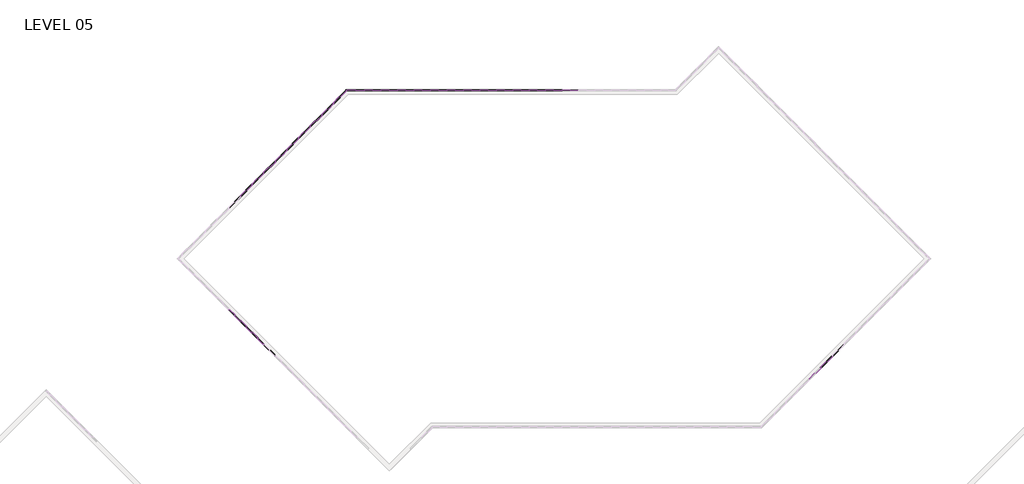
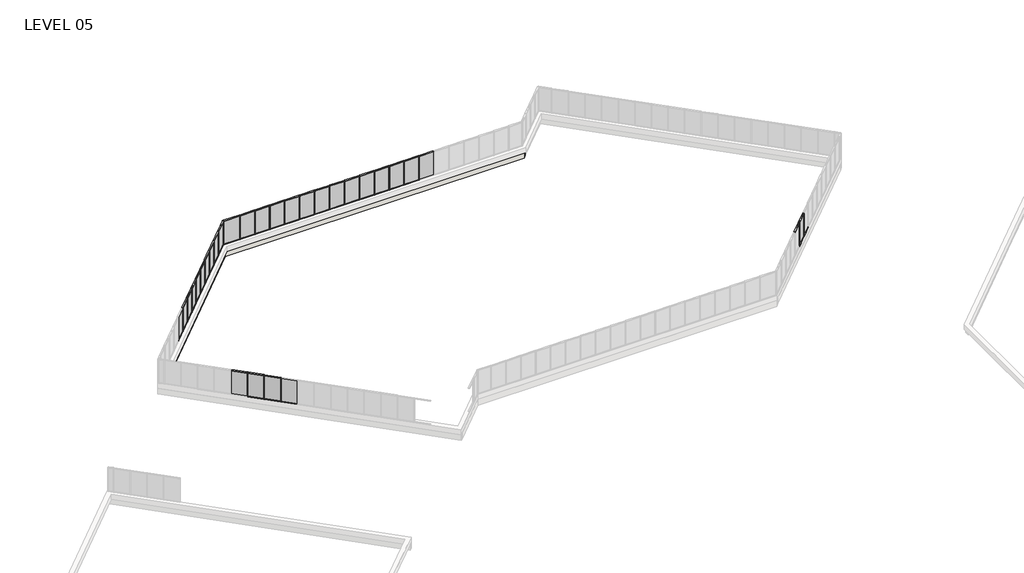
# One storey, part 14 of 17: 85 members, 29 plates, 2 walls.
"""IFC4 building model written with IfcOpenShell, lengths in millimetres."""

from ifc_helpers import new_model, si_unit, origin, place, context, project, spatial, faceted_brep, transform, mapped, element, save
from components import member_5247f267, member_e44af9ab, member_800970d4, member_1bd862b2, member_7ca0f77f, plate_67294edd, plate_bbcbcabf, plate_3fb62afd, plate_e0fd5134

model = new_model("IFC4")

# Units and contexts
model_context = context("Model", 3, world=origin())
ifc_project = project(units=[si_unit("LENGTHUNIT", "METRE", prefix="MILLI")], contexts=[model_context])

# Site, building, storey
site = spatial("IfcSite", under=ifc_project)
building = spatial("IfcBuilding", under=site)
storey = spatial("IfcBuildingStorey", under=building, Name="LEVEL 05", Elevation=15824.2)

# Members
placement = place(None, origin())
member_shape = member_5247f267(model_context)
element("IfcMember", 1, ObjectType="Rectangular Mullion : 2\" x 4.5\" rectangular", at=placement, inside=storey, context=model_context, shape_type="MappedRepresentation", body=[
    mapped(member_shape, transform((30562.55, 120127.9523049, 15824.2), x_axis=(0.0, 0.0, -1.0), y_axis=(0.0, 1.0, 0.0), z_axis=(1.0, 0.0, 0.0))),
])
element("IfcMember", 2, ObjectType="Rectangular Mullion : 2\" x 4.5\" rectangular", at=placement, inside=storey, context=model_context, shape_type="MappedRepresentation", body=[
    mapped(member_shape, transform((29038.55, 120127.9523049, 15824.2), x_axis=(0.0, 0.0, -1.0), y_axis=(0.0, 1.0, 0.0), z_axis=(1.0, 0.0, 0.0))),
])
element("IfcMember", 3, ObjectType="Rectangular Mullion : 2\" x 4.5\" rectangular", at=placement, inside=storey, context=model_context, shape_type="MappedRepresentation", body=[
    mapped(member_shape, transform((27514.55, 120127.9523049, 15824.2), x_axis=(0.0, 0.0, -1.0), y_axis=(0.0, 1.0, 0.0), z_axis=(1.0, 0.0, 0.0))),
])
element("IfcMember", 4, ObjectType="Rectangular Mullion : 2\" x 4.5\" rectangular", at=placement, inside=storey, context=model_context, shape_type="MappedRepresentation", body=[
    mapped(member_shape, transform((24466.55, 120127.9523049, 15824.2), x_axis=(0.0, 0.0, -1.0), y_axis=(0.0, 1.0, 0.0), z_axis=(1.0, 0.0, 0.0))),
])
element("IfcMember", 5, ObjectType="Rectangular Mullion : 2\" x 4.5\" rectangular", at=placement, inside=storey, context=model_context, shape_type="MappedRepresentation", body=[
    mapped(member_shape, transform((22942.55, 120127.9523049, 15824.2), x_axis=(0.0, 0.0, -1.0), y_axis=(0.0, 1.0, 0.0), z_axis=(1.0, 0.0, 0.0))),
])
element("IfcMember", 6, ObjectType="Rectangular Mullion : 2\" x 4.5\" rectangular", at=placement, inside=storey, context=model_context, shape_type="MappedRepresentation", body=[
    mapped(member_shape, transform((19894.55, 120127.9523049, 15824.2), x_axis=(0.0, 0.0, -1.0), y_axis=(0.0, 1.0, 0.0), z_axis=(1.0, 0.0, 0.0))),
])
element("IfcMember", 7, ObjectType="Rectangular Mullion : 2\" x 4.5\" rectangular", at=placement, inside=storey, context=model_context, shape_type="MappedRepresentation", body=[
    mapped(member_shape, transform((15322.55, 120127.9523049, 15824.2), x_axis=(0.0, 0.0, -1.0), y_axis=(0.0, 1.0, 0.0), z_axis=(1.0, 0.0, 0.0))),
])
element("IfcMember", 8, ObjectType="Rectangular Mullion : 2\" x 4.5\" rectangular", at=placement, inside=storey, context=model_context, shape_type="MappedRepresentation", body=[
    mapped(member_shape, transform((13798.55, 120127.9523049, 15824.2), x_axis=(0.0, 0.0, -1.0), y_axis=(0.0, 1.0, 0.0), z_axis=(1.0, 0.0, 0.0))),
])
element("IfcMember", 9, ObjectType="Rectangular Mullion : 2\" x 4.5\" rectangular", at=placement, inside=storey, context=model_context, shape_type="MappedRepresentation", body=[
    mapped(member_shape, transform((21418.55, 120127.9523049, 15824.2), x_axis=(0.0, 0.0, -1.0), y_axis=(0.0, 1.0, 0.0), z_axis=(1.0, 0.0, 0.0))),
])
element("IfcMember", 10, ObjectType="Rectangular Mullion : 2\" x 4.5\" rectangular", at=placement, inside=storey, context=model_context, shape_type="MappedRepresentation", body=[
    mapped(member_shape, transform((25990.55, 120127.9523049, 15824.2), x_axis=(0.0, 0.0, -1.0), y_axis=(0.0, 1.0, 0.0), z_axis=(1.0, 0.0, 0.0))),
])
element("IfcMember", 11, ObjectType="Rectangular Mullion : 2\" x 4.5\" rectangular", at=placement, inside=storey, context=model_context, shape_type="MappedRepresentation", body=[
    mapped(member_shape, transform((18370.55, 120127.9523049, 15824.2), x_axis=(0.0, 0.0, -1.0), y_axis=(0.0, 1.0, 0.0), z_axis=(1.0, 0.0, 0.0))),
])
element("IfcMember", 12, ObjectType="Rectangular Mullion : 2\" x 4.5\" rectangular", at=placement, inside=storey, context=model_context, shape_type="MappedRepresentation", body=[
    mapped(member_shape, transform((16846.55, 120127.9523049, 15824.2), x_axis=(0.0, 0.0, -1.0), y_axis=(0.0, 1.0, 0.0), z_axis=(1.0, 0.0, 0.0))),
])
element("IfcMember", 13, ObjectType="Rectangular Mullion : 2\" x 4.5\" rectangular", at=placement, inside=storey, context=model_context, shape_type="MappedRepresentation", body=[
    mapped(member_shape, transform((9397.6593581, 118915.3677986, 15824.2), x_axis=(0.0, 0.0, -1.0), y_axis=(-0.7071067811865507, 0.7071067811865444, 0.0), z_axis=(0.7071067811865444, 0.7071067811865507, 0.0))),
])
element("IfcMember", 14, ObjectType="Rectangular Mullion : 2\" x 4.5\" rectangular", at=placement, inside=storey, context=model_context, shape_type="MappedRepresentation", body=[
    mapped(member_shape, transform((8320.0286235, 117837.7370641, 15824.2), x_axis=(0.0, 0.0, -1.0), y_axis=(-0.7071067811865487, 0.7071067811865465, 0.0), z_axis=(0.7071067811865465, 0.7071067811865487, 0.0))),
])
element("IfcMember", 15, ObjectType="Rectangular Mullion : 2\" x 4.5\" rectangular", at=placement, inside=storey, context=model_context, shape_type="MappedRepresentation", body=[
    mapped(member_shape, transform((7242.397889, 116760.1063296, 15824.2), x_axis=(0.0, 0.0, -1.0), y_axis=(-0.7071067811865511, 0.707106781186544, 0.0), z_axis=(0.707106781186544, 0.7071067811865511, 0.0))),
])
element("IfcMember", 16, ObjectType="Rectangular Mullion : 2\" x 4.5\" rectangular", at=placement, inside=storey, context=model_context, shape_type="MappedRepresentation", body=[
    mapped(member_shape, transform((6164.7671545, 115682.475595, 15824.2), x_axis=(0.0, 0.0, -1.0), y_axis=(-0.7071067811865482, 0.7071067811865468, 0.0), z_axis=(0.7071067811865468, 0.7071067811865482, 0.0))),
])
element("IfcMember", 17, ObjectType="Rectangular Mullion : 2\" x 4.5\" rectangular", at=placement, inside=storey, context=model_context, shape_type="MappedRepresentation", body=[
    mapped(member_shape, transform((4009.5056854, 113527.214126, 15824.2), x_axis=(0.0, 0.0, -1.0), y_axis=(-0.7071067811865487, 0.7071067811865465, 0.0), z_axis=(0.7071067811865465, 0.7071067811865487, 0.0))),
])
element("IfcMember", 18, ObjectType="Rectangular Mullion : 2\" x 4.5\" rectangular", at=placement, inside=storey, context=model_context, shape_type="MappedRepresentation", body=[
    mapped(member_shape, transform((2931.8749509, 112449.5833914, 15824.2), x_axis=(0.0, 0.0, -1.0), y_axis=(-0.7071067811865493, 0.7071067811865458, 0.0), z_axis=(0.7071067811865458, 0.7071067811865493, 0.0))),
])
element("IfcMember", 19, ObjectType="Rectangular Mullion : 2\" x 4.5\" rectangular", at=placement, inside=storey, context=model_context, shape_type="MappedRepresentation", body=[
    mapped(member_shape, transform((1854.2442164, 111371.9526569, 15824.2), x_axis=(0.0, 0.0, -1.0), y_axis=(-0.7071067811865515, 0.7071067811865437, 0.0), z_axis=(0.7071067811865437, 0.7071067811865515, 0.0))),
])
element("IfcMember", 20, ObjectType="Rectangular Mullion : 2\" x 4.5\" rectangular", at=placement, inside=storey, context=model_context, shape_type="MappedRepresentation", body=[
    mapped(member_shape, transform((5087.1364199, 114604.8448605, 15824.2), x_axis=(0.0, 0.0, -1.0), y_axis=(-0.7071067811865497, 0.7071067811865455, 0.0), z_axis=(0.7071067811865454, 0.7071067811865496, 0.0))),
])
element("IfcMember", 21, ObjectType="Rectangular Mullion : 2\" x 4.5\" rectangular", at=placement, inside=storey, context=model_context, shape_type="MappedRepresentation", body=[
    mapped(member_shape, transform((776.6134818, 110294.3219224, 15824.2), x_axis=(0.0, 0.0, -1.0), y_axis=(-0.7071067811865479, 0.7071067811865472, 0.0), z_axis=(0.7071067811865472, 0.7071067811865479, 0.0))),
])
element("IfcMember", 22, ObjectType="Rectangular Mullion : 2\" x 4.5\" rectangular", at=placement, inside=storey, context=model_context, shape_type="MappedRepresentation", body=[
    mapped(member_shape, transform((812.713179, 98753.3329903, 15824.2), x_axis=(0.0, 0.0, -1.0), y_axis=(-0.7071067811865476, -0.7071067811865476, 0.0), z_axis=(-0.7071067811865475, 0.7071067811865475, 0.0))),
])
element("IfcMember", 23, ObjectType="Rectangular Mullion : 2\" x 4.5\" rectangular", at=placement, inside=storey, context=model_context, shape_type="MappedRepresentation", body=[
    mapped(member_shape, transform((1890.3439135, 97675.7022558, 15824.2), x_axis=(0.0, 0.0, -1.0), y_axis=(-0.7071067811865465, -0.7071067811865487, 0.0), z_axis=(-0.7071067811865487, 0.7071067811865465, 0.0))),
])
element("IfcMember", 24, ObjectType="Rectangular Mullion : 2\" x 4.5\" rectangular", at=placement, inside=storey, context=model_context, shape_type="MappedRepresentation", body=[
    mapped(member_shape, transform((2967.974648, 96598.0715213, 15824.2), x_axis=(0.0, 0.0, -1.0), y_axis=(-0.7071067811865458, -0.7071067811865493, 0.0), z_axis=(-0.7071067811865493, 0.7071067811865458, 0.0))),
])
element("IfcMember", 25, ObjectType="Rectangular Mullion : 2\" x 4.5\" rectangular", at=placement, inside=storey, context=model_context, shape_type="MappedRepresentation", body=[
    mapped(member_shape, transform((55642.2748488, 95556.4210181, 15824.2), x_axis=(0.0, 0.0, -1.0), y_axis=(0.7071067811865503, -0.7071067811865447, 0.0), z_axis=(-0.7071067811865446, -0.7071067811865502, 0.0))),
])
element("IfcMember", 26, ObjectType="Rectangular Mullion : 2\" x 4.5\" rectangular", at=placement, inside=storey, context=model_context, shape_type="MappedRepresentation", body=[
    mapped(member_shape, transform((54564.6515152, 94478.7976845, 15824.2), x_axis=(0.0, 0.0, -1.0), y_axis=(0.7071067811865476, -0.7071067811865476, 0.0), z_axis=(-0.7071067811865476, -0.7071067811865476, 0.0))),
])
element("IfcMember", 27, ObjectType="Rectangular Mullion : 2\" x 4.5\" rectangular", at=placement, inside=storey, context=model_context, shape_type="MappedRepresentation", body=[
    mapped(member_shape, transform((30613.35, 120127.9523049, 18415.0), x_axis=(0.0, 0.0, 1.0), y_axis=(0.0, 1.0, 0.0), z_axis=(-1.0, 0.0, 0.0))),
])
element("IfcMember", 28, ObjectType="Rectangular Mullion : 2\" x 4.5\" rectangular", at=placement, inside=storey, context=model_context, shape_type="MappedRepresentation", body=[
    mapped(member_shape, transform((29089.35, 120127.9523049, 18415.0), x_axis=(0.0, 0.0, 1.0), y_axis=(0.0, 1.0, 0.0), z_axis=(-1.0, 0.0, 0.0))),
])
element("IfcMember", 29, ObjectType="Rectangular Mullion : 2\" x 4.5\" rectangular", at=placement, inside=storey, context=model_context, shape_type="MappedRepresentation", body=[
    mapped(member_shape, transform((27565.35, 120127.9523049, 18415.0), x_axis=(0.0, 0.0, 1.0), y_axis=(0.0, 1.0, 0.0), z_axis=(-1.0, 0.0, 0.0))),
])
element("IfcMember", 30, ObjectType="Rectangular Mullion : 2\" x 4.5\" rectangular", at=placement, inside=storey, context=model_context, shape_type="MappedRepresentation", body=[
    mapped(member_shape, transform((24517.35, 120127.9523049, 18415.0), x_axis=(0.0, 0.0, 1.0), y_axis=(0.0, 1.0, 0.0), z_axis=(-1.0, 0.0, 0.0))),
])
element("IfcMember", 31, ObjectType="Rectangular Mullion : 2\" x 4.5\" rectangular", at=placement, inside=storey, context=model_context, shape_type="MappedRepresentation", body=[
    mapped(member_shape, transform((22993.35, 120127.9523049, 18415.0), x_axis=(0.0, 0.0, 1.0), y_axis=(0.0, 1.0, 0.0), z_axis=(-1.0, 0.0, 0.0))),
])
element("IfcMember", 32, ObjectType="Rectangular Mullion : 2\" x 4.5\" rectangular", at=placement, inside=storey, context=model_context, shape_type="MappedRepresentation", body=[
    mapped(member_shape, transform((19945.35, 120127.9523049, 18415.0), x_axis=(0.0, 0.0, 1.0), y_axis=(0.0, 1.0, 0.0), z_axis=(-1.0, 0.0, 0.0))),
])
element("IfcMember", 33, ObjectType="Rectangular Mullion : 2\" x 4.5\" rectangular", at=placement, inside=storey, context=model_context, shape_type="MappedRepresentation", body=[
    mapped(member_shape, transform((15373.35, 120127.9523049, 18415.0), x_axis=(0.0, 0.0, 1.0), y_axis=(0.0, 1.0, 0.0), z_axis=(-1.0, 0.0, 0.0))),
])
element("IfcMember", 34, ObjectType="Rectangular Mullion : 2\" x 4.5\" rectangular", at=placement, inside=storey, context=model_context, shape_type="MappedRepresentation", body=[
    mapped(member_shape, transform((13849.35, 120127.9523049, 18415.0), x_axis=(0.0, 0.0, 1.0), y_axis=(0.0, 1.0, 0.0), z_axis=(-1.0, 0.0, 0.0))),
])
element("IfcMember", 35, ObjectType="Rectangular Mullion : 2\" x 4.5\" rectangular", at=placement, inside=storey, context=model_context, shape_type="MappedRepresentation", body=[
    mapped(member_shape, transform((21469.35, 120127.9523049, 18415.0), x_axis=(0.0, 0.0, 1.0), y_axis=(0.0, 1.0, 0.0), z_axis=(-1.0, 0.0, 0.0))),
])
element("IfcMember", 36, ObjectType="Rectangular Mullion : 2\" x 4.5\" rectangular", at=placement, inside=storey, context=model_context, shape_type="MappedRepresentation", body=[
    mapped(member_shape, transform((26041.35, 120127.9523049, 18415.0), x_axis=(0.0, 0.0, 1.0), y_axis=(0.0, 1.0, 0.0), z_axis=(-1.0, 0.0, 0.0))),
])
element("IfcMember", 37, ObjectType="Rectangular Mullion : 2\" x 4.5\" rectangular", at=placement, inside=storey, context=model_context, shape_type="MappedRepresentation", body=[
    mapped(member_shape, transform((18421.35, 120127.9523049, 18415.0), x_axis=(0.0, 0.0, 1.0), y_axis=(0.0, 1.0, 0.0), z_axis=(-1.0, 0.0, 0.0))),
])
element("IfcMember", 38, ObjectType="Rectangular Mullion : 2\" x 4.5\" rectangular", at=placement, inside=storey, context=model_context, shape_type="MappedRepresentation", body=[
    mapped(member_shape, transform((16897.35, 120127.9523049, 18415.0), x_axis=(0.0, 0.0, 1.0), y_axis=(0.0, 1.0, 0.0), z_axis=(-1.0, 0.0, 0.0))),
])
element("IfcMember", 39, ObjectType="Rectangular Mullion : 2\" x 4.5\" rectangular", at=placement, inside=storey, context=model_context, shape_type="MappedRepresentation", body=[
    mapped(member_shape, transform((12325.35, 120127.9523049, 18415.0), x_axis=(0.0, 0.0, 1.0), y_axis=(0.0, 1.0, 0.0), z_axis=(-1.0, 0.0, 0.0))),
])
element("IfcMember", 40, ObjectType="Rectangular Mullion : 2\" x 4.5\" rectangular", at=placement, inside=storey, context=model_context, shape_type="MappedRepresentation", body=[
    mapped(member_shape, transform((8355.949648, 117873.6580886, 18415.0), x_axis=(0.0, 0.0, 1.0), y_axis=(-0.7071067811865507, 0.7071067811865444, 0.0), z_axis=(-0.7071067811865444, -0.7071067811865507, 0.0))),
])
element("IfcMember", 41, ObjectType="Rectangular Mullion : 2\" x 4.5\" rectangular", at=placement, inside=storey, context=model_context, shape_type="MappedRepresentation", body=[
    mapped(member_shape, transform((7278.3189135, 116796.027354, 18415.0), x_axis=(0.0, 0.0, 1.0), y_axis=(-0.7071067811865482, 0.7071067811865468, 0.0), z_axis=(-0.7071067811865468, -0.7071067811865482, 0.0))),
])
element("IfcMember", 42, ObjectType="Rectangular Mullion : 2\" x 4.5\" rectangular", at=placement, inside=storey, context=model_context, shape_type="MappedRepresentation", body=[
    mapped(member_shape, transform((6200.688179, 115718.3966195, 18415.0), x_axis=(0.0, 0.0, 1.0), y_axis=(-0.7071067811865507, 0.7071067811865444, 0.0), z_axis=(-0.7071067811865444, -0.7071067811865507, 0.0))),
])
element("IfcMember", 43, ObjectType="Rectangular Mullion : 2\" x 4.5\" rectangular", at=placement, inside=storey, context=model_context, shape_type="MappedRepresentation", body=[
    mapped(member_shape, transform((4045.4267099, 113563.1351505, 18415.0), x_axis=(0.0, 0.0, 1.0), y_axis=(-0.7071067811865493, 0.7071067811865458, 0.0), z_axis=(-0.7071067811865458, -0.7071067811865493, 0.0))),
])
element("IfcMember", 44, ObjectType="Rectangular Mullion : 2\" x 4.5\" rectangular", at=placement, inside=storey, context=model_context, shape_type="MappedRepresentation", body=[
    mapped(member_shape, transform((2967.7959754, 112485.5044159, 18415.0), x_axis=(0.0, 0.0, 1.0), y_axis=(-0.7071067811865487, 0.7071067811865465, 0.0), z_axis=(-0.7071067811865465, -0.7071067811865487, 0.0))),
])
element("IfcMember", 45, ObjectType="Rectangular Mullion : 2\" x 4.5\" rectangular", at=placement, inside=storey, context=model_context, shape_type="MappedRepresentation", body=[
    mapped(member_shape, transform((1890.1652408, 111407.8736814, 18415.0), x_axis=(0.0, 0.0, 1.0), y_axis=(-0.7071067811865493, 0.7071067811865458, 0.0), z_axis=(-0.7071067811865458, -0.7071067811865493, 0.0))),
])
element("IfcMember", 46, ObjectType="Rectangular Mullion : 2\" x 4.5\" rectangular", at=placement, inside=storey, context=model_context, shape_type="MappedRepresentation", body=[
    mapped(member_shape, transform((5123.0574444, 114640.765885, 18415.0), x_axis=(0.0, 0.0, 1.0), y_axis=(-0.707106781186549, 0.7071067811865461, 0.0), z_axis=(-0.707106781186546, -0.7071067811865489, 0.0))),
])
element("IfcMember", 47, ObjectType="Rectangular Mullion : 2\" x 4.5\" rectangular", at=placement, inside=storey, context=model_context, shape_type="MappedRepresentation", body=[
    mapped(member_shape, transform((812.5345063, 110330.2429469, 18415.0), x_axis=(0.0, 0.0, 1.0), y_axis=(-0.7071067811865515, 0.7071067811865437, 0.0), z_axis=(-0.7071067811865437, -0.7071067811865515, 0.0))),
])
element("IfcMember", 48, ObjectType="Rectangular Mullion : 2\" x 4.5\" rectangular", at=placement, inside=storey, context=model_context, shape_type="MappedRepresentation", body=[
    mapped(member_shape, transform((776.7921545, 98789.2540148, 18415.0), x_axis=(0.0, 0.0, 1.0), y_axis=(-0.7071067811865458, -0.7071067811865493, 0.0), z_axis=(0.7071067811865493, -0.7071067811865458, 0.0))),
])
element("IfcMember", 49, ObjectType="Rectangular Mullion : 2\" x 4.5\" rectangular", at=placement, inside=storey, context=model_context, shape_type="MappedRepresentation", body=[
    mapped(member_shape, transform((1854.422889, 97711.6232803, 18415.0), x_axis=(0.0, 0.0, 1.0), y_axis=(-0.7071067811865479, -0.7071067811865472, 0.0), z_axis=(0.7071067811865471, -0.7071067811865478, 0.0))),
])
element("IfcMember", 50, ObjectType="Rectangular Mullion : 2\" x 4.5\" rectangular", at=placement, inside=storey, context=model_context, shape_type="MappedRepresentation", body=[
    mapped(member_shape, transform((2932.0536235, 96633.9925458, 18415.0), x_axis=(0.0, 0.0, 1.0), y_axis=(-0.7071067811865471, -0.7071067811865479, 0.0), z_axis=(0.7071067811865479, -0.7071067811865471, 0.0))),
])
element("IfcMember", 51, ObjectType="Rectangular Mullion : 2\" x 4.5\" rectangular", at=placement, inside=storey, context=model_context, shape_type="MappedRepresentation", body=[
    mapped(member_shape, transform((55606.3538244, 95520.4999937, 18415.0), x_axis=(0.0, 0.0, 1.0), y_axis=(0.7071067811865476, -0.7071067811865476, 0.0), z_axis=(0.7071067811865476, 0.7071067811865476, 0.0))),
])
element("IfcMember", 52, ObjectType="Rectangular Mullion : 2\" x 4.5\" rectangular", at=placement, inside=storey, context=model_context, shape_type="MappedRepresentation", body=[
    mapped(member_shape, transform((54528.7304907, 94442.87666, 18415.0), x_axis=(0.0, 0.0, 1.0), y_axis=(0.7071067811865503, -0.7071067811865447, 0.0), z_axis=(0.7071067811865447, 0.7071067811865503, 0.0))),
])
member_2_shape = member_e44af9ab(model_context)
element("IfcMember", 53, ObjectType="Rectangular Mullion : 2\" x 4.5\" rectangular", at=placement, inside=storey, context=model_context, shape_type="MappedRepresentation", body=[
    mapped(member_2_shape, transform((30587.95, 120127.9523049, 15824.2), x_axis=(-1.0, 0.0, 0.0), y_axis=(0.0, 1.0, 0.0), z_axis=(0.0, 0.0, -1.0))),
])
element("IfcMember", 54, ObjectType="Rectangular Mullion : 2\" x 4.5\" rectangular", at=placement, inside=storey, context=model_context, shape_type="MappedRepresentation", body=[
    mapped(member_2_shape, transform((29063.95, 120127.9523049, 15824.2), x_axis=(-1.0, 0.0, 0.0), y_axis=(0.0, 1.0, 0.0), z_axis=(0.0, 0.0, -1.0))),
])
element("IfcMember", 55, ObjectType="Rectangular Mullion : 2\" x 4.5\" rectangular", at=placement, inside=storey, context=model_context, shape_type="MappedRepresentation", body=[
    mapped(member_2_shape, transform((27539.95, 120127.9523049, 15824.2), x_axis=(-1.0, 0.0, 0.0), y_axis=(0.0, 1.0, 0.0), z_axis=(0.0, 0.0, -1.0))),
])
element("IfcMember", 56, ObjectType="Rectangular Mullion : 2\" x 4.5\" rectangular", at=placement, inside=storey, context=model_context, shape_type="MappedRepresentation", body=[
    mapped(member_2_shape, transform((24491.95, 120127.9523049, 15824.2), x_axis=(-1.0, 0.0, 0.0), y_axis=(0.0, 1.0, 0.0), z_axis=(0.0, 0.0, -1.0))),
])
element("IfcMember", 57, ObjectType="Rectangular Mullion : 2\" x 4.5\" rectangular", at=placement, inside=storey, context=model_context, shape_type="MappedRepresentation", body=[
    mapped(member_2_shape, transform((22967.95, 120127.9523049, 15824.2), x_axis=(-1.0, 0.0, 0.0), y_axis=(0.0, 1.0, 0.0), z_axis=(0.0, 0.0, -1.0))),
])
element("IfcMember", 58, ObjectType="Rectangular Mullion : 2\" x 4.5\" rectangular", at=placement, inside=storey, context=model_context, shape_type="MappedRepresentation", body=[
    mapped(member_2_shape, transform((19919.95, 120127.9523049, 15824.2), x_axis=(-1.0, 0.0, 0.0), y_axis=(0.0, 1.0, 0.0), z_axis=(0.0, 0.0, -1.0))),
])
element("IfcMember", 59, ObjectType="Rectangular Mullion : 2\" x 4.5\" rectangular", at=placement, inside=storey, context=model_context, shape_type="MappedRepresentation", body=[
    mapped(member_2_shape, transform((15347.95, 120127.9523049, 15824.2), x_axis=(-1.0, 0.0, 0.0), y_axis=(0.0, 1.0, 0.0), z_axis=(0.0, 0.0, -1.0))),
])
element("IfcMember", 60, ObjectType="Rectangular Mullion : 2\" x 4.5\" rectangular", at=placement, inside=storey, context=model_context, shape_type="MappedRepresentation", body=[
    mapped(member_2_shape, transform((13823.95, 120127.9523049, 15824.2), x_axis=(-1.0, 0.0, 0.0), y_axis=(0.0, 1.0, 0.0), z_axis=(0.0, 0.0, -1.0))),
])
element("IfcMember", 61, ObjectType="Rectangular Mullion : 2\" x 4.5\" rectangular", at=placement, inside=storey, context=model_context, shape_type="MappedRepresentation", body=[
    mapped(member_2_shape, transform((21443.95, 120127.9523049, 15824.2), x_axis=(-1.0, 0.0, 0.0), y_axis=(0.0, 1.0, 0.0), z_axis=(0.0, 0.0, -1.0))),
])
element("IfcMember", 62, ObjectType="Rectangular Mullion : 2\" x 4.5\" rectangular", at=placement, inside=storey, context=model_context, shape_type="MappedRepresentation", body=[
    mapped(member_2_shape, transform((26015.95, 120127.9523049, 15824.2), x_axis=(-1.0, 0.0, 0.0), y_axis=(0.0, 1.0, 0.0), z_axis=(0.0, 0.0, -1.0))),
])
element("IfcMember", 63, ObjectType="Rectangular Mullion : 2\" x 4.5\" rectangular", at=placement, inside=storey, context=model_context, shape_type="MappedRepresentation", body=[
    mapped(member_2_shape, transform((18395.95, 120127.9523049, 15824.2), x_axis=(-1.0, 0.0, 0.0), y_axis=(0.0, 1.0, 0.0), z_axis=(0.0, 0.0, -1.0))),
])
element("IfcMember", 64, ObjectType="Rectangular Mullion : 2\" x 4.5\" rectangular", at=placement, inside=storey, context=model_context, shape_type="MappedRepresentation", body=[
    mapped(member_2_shape, transform((16871.95, 120127.9523049, 15824.2), x_axis=(-1.0, 0.0, 0.0), y_axis=(0.0, 1.0, 0.0), z_axis=(0.0, 0.0, -1.0))),
])
element("IfcMember", 65, ObjectType="Rectangular Mullion : 2\" x 4.5\" rectangular", at=placement, inside=storey, context=model_context, shape_type="MappedRepresentation", body=[
    mapped(member_2_shape, transform((12299.95, 120127.9523049, 15824.2), x_axis=(-1.0, 0.0, 0.0), y_axis=(0.0, 1.0, 0.0), z_axis=(0.0, 0.0, -1.0))),
])
element("IfcMember", 66, ObjectType="Rectangular Mullion : 2\" x 4.5\" rectangular", at=placement, inside=storey, context=model_context, shape_type="MappedRepresentation", body=[
    mapped(member_2_shape, transform((9415.6198703, 118933.3283108, 15824.2), x_axis=(-0.7071067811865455, -0.7071067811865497, 0.0), y_axis=(-0.7071067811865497, 0.7071067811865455, 0.0), z_axis=(0.0, 0.0, -1.0))),
])
element("IfcMember", 67, ObjectType="Rectangular Mullion : 2\" x 4.5\" rectangular", at=placement, inside=storey, context=model_context, shape_type="MappedRepresentation", body=[
    mapped(member_2_shape, transform((8337.9891358, 117855.6975763, 15824.2), x_axis=(-0.7071067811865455, -0.7071067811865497, 0.0), y_axis=(-0.7071067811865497, 0.7071067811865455, 0.0), z_axis=(0.0, 0.0, -1.0))),
])
element("IfcMember", 68, ObjectType="Rectangular Mullion : 2\" x 4.5\" rectangular", at=placement, inside=storey, context=model_context, shape_type="MappedRepresentation", body=[
    mapped(member_2_shape, transform((7260.3584012, 116778.0668418, 15824.2), x_axis=(-0.7071067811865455, -0.7071067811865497, 0.0), y_axis=(-0.7071067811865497, 0.7071067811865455, 0.0), z_axis=(0.0, 0.0, -1.0))),
])
element("IfcMember", 69, ObjectType="Rectangular Mullion : 2\" x 4.5\" rectangular", at=placement, inside=storey, context=model_context, shape_type="MappedRepresentation", body=[
    mapped(member_2_shape, transform((6182.7276667, 115700.4361073, 15824.2), x_axis=(-0.7071067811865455, -0.7071067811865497, 0.0), y_axis=(-0.7071067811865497, 0.7071067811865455, 0.0), z_axis=(0.0, 0.0, -1.0))),
])
element("IfcMember", 70, ObjectType="Rectangular Mullion : 2\" x 4.5\" rectangular", at=placement, inside=storey, context=model_context, shape_type="MappedRepresentation", body=[
    mapped(member_2_shape, transform((4027.4661977, 113545.1746382, 15824.2), x_axis=(-0.7071067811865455, -0.7071067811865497, 0.0), y_axis=(-0.7071067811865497, 0.7071067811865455, 0.0), z_axis=(0.0, 0.0, -1.0))),
])
element("IfcMember", 71, ObjectType="Rectangular Mullion : 2\" x 4.5\" rectangular", at=placement, inside=storey, context=model_context, shape_type="MappedRepresentation", body=[
    mapped(member_2_shape, transform((2949.8354631, 112467.5439037, 15824.2), x_axis=(-0.7071067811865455, -0.7071067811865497, 0.0), y_axis=(-0.7071067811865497, 0.7071067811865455, 0.0), z_axis=(0.0, 0.0, -1.0))),
])
element("IfcMember", 72, ObjectType="Rectangular Mullion : 2\" x 4.5\" rectangular", at=placement, inside=storey, context=model_context, shape_type="MappedRepresentation", body=[
    mapped(member_2_shape, transform((1872.2047286, 111389.9131692, 15824.2), x_axis=(-0.7071067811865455, -0.7071067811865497, 0.0), y_axis=(-0.7071067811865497, 0.7071067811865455, 0.0), z_axis=(0.0, 0.0, -1.0))),
])
element("IfcMember", 73, ObjectType="Rectangular Mullion : 2\" x 4.5\" rectangular", at=placement, inside=storey, context=model_context, shape_type="MappedRepresentation", body=[
    mapped(member_2_shape, transform((5105.0969322, 114622.8053727, 15824.2), x_axis=(-0.7071067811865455, -0.7071067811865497, 0.0), y_axis=(-0.7071067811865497, 0.7071067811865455, 0.0), z_axis=(0.0, 0.0, -1.0))),
])
element("IfcMember", 74, ObjectType="Rectangular Mullion : 2\" x 4.5\" rectangular", at=placement, inside=storey, context=model_context, shape_type="MappedRepresentation", body=[
    mapped(member_2_shape, transform((794.5739941, 110312.2824346, 15824.2), x_axis=(-0.7071067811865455, -0.7071067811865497, 0.0), y_axis=(-0.7071067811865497, 0.7071067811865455, 0.0), z_axis=(0.0, 0.0, -1.0))),
])
element("IfcMember", 75, ObjectType="Rectangular Mullion : 2\" x 4.5\" rectangular", at=placement, inside=storey, context=model_context, shape_type="MappedRepresentation", body=[
    mapped(member_2_shape, transform((794.7526667, 98771.2935026, 15824.2), x_axis=(0.7071067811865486, -0.7071067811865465, 0.0), y_axis=(-0.7071067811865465, -0.7071067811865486, 0.0), z_axis=(0.0, 0.0, -1.0))),
])
element("IfcMember", 76, ObjectType="Rectangular Mullion : 2\" x 4.5\" rectangular", at=placement, inside=storey, context=model_context, shape_type="MappedRepresentation", body=[
    mapped(member_2_shape, transform((1872.3834012, 97693.6627681, 15824.2), x_axis=(0.7071067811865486, -0.7071067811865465, 0.0), y_axis=(-0.7071067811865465, -0.7071067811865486, 0.0), z_axis=(0.0, 0.0, -1.0))),
])
element("IfcMember", 77, ObjectType="Rectangular Mullion : 2\" x 4.5\" rectangular", at=placement, inside=storey, context=model_context, shape_type="MappedRepresentation", body=[
    mapped(member_2_shape, transform((2950.0141358, 96616.0320335, 15824.2), x_axis=(0.7071067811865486, -0.7071067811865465, 0.0), y_axis=(-0.7071067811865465, -0.7071067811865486, 0.0), z_axis=(0.0, 0.0, -1.0))),
])
element("IfcMember", 78, ObjectType="Rectangular Mullion : 2\" x 4.5\" rectangular", at=placement, inside=storey, context=model_context, shape_type="MappedRepresentation", body=[
    mapped(member_2_shape, transform((55624.3143366, 95538.4605059, 15824.2), x_axis=(0.7071067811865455, 0.7071067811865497, 0.0), y_axis=(0.7071067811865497, -0.7071067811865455, 0.0), z_axis=(0.0, 0.0, -1.0))),
])
element("IfcMember", 79, ObjectType="Rectangular Mullion : 2\" x 4.5\" rectangular", at=placement, inside=storey, context=model_context, shape_type="MappedRepresentation", body=[
    mapped(member_2_shape, transform((54546.6910029, 94460.8371722, 15824.2), x_axis=(0.7071067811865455, 0.7071067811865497, 0.0), y_axis=(0.7071067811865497, -0.7071067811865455, 0.0), z_axis=(0.0, 0.0, -1.0))),
])
member_3_shape = member_800970d4(model_context)
element("IfcMember", 80, ObjectType="Rectangular Mullion : 2\" x 4.5\" rectangular", at=placement, inside=storey, context=model_context, shape_type="MappedRepresentation", body=[
    mapped(member_3_shape, transform((10610.2438644, 120127.9523049, 15824.2), x_axis=(-1.0, 0.0, 0.0), y_axis=(0.0, 1.0, 0.0), z_axis=(0.0, 0.0, -1.0))),
])
element("IfcMember", 81, ObjectType="Rectangular Mullion : 2\" x 4.5\" rectangular", at=placement, inside=storey, context=model_context, shape_type="MappedRepresentation", body=[
    mapped(member_3_shape, transform((10610.2438644, 120127.9523049, 18415.0), x_axis=(0.7071067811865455, 0.7071067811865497, 0.0), y_axis=(-0.7071067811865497, 0.7071067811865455, 0.0), z_axis=(0.0, 0.0, 1.0))),
])
member_4_shape = member_1bd862b2(model_context)
element("IfcMember", 82, ObjectType="Rectangular Mullion : 2\" x 4.5\" rectangular", at=placement, inside=storey, context=model_context, shape_type="MappedRepresentation", body=[
    mapped(member_4_shape, transform((10661.0438644, 120127.9523049, 18415.0), x_axis=(0.0, 0.0, 1.0), y_axis=(0.0, 1.0, 0.0), z_axis=(-1.0, 0.0, 0.0))),
])
element("IfcMember", 83, ObjectType="Rectangular Mullion : 2\" x 4.5\" rectangular", at=placement, inside=storey, context=model_context, shape_type="MappedRepresentation", body=[
    mapped(member_4_shape, transform((12274.55, 120127.9523049, 15824.2), x_axis=(0.0, 0.0, -1.0), y_axis=(0.0, 1.0, 0.0), z_axis=(1.0, 0.0, 0.0))),
])
member_5_shape = member_7ca0f77f(model_context)
element("IfcMember", 84, ObjectType="Rectangular Mullion : 2\" x 4.5\" rectangular", at=placement, inside=storey, context=model_context, shape_type="MappedRepresentation", body=[
    mapped(member_5_shape, transform((9433.5803825, 118951.2888231, 18415.0), x_axis=(0.0, 0.0, 1.0), y_axis=(-0.7071067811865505, 0.7071067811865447, 0.0), z_axis=(-0.7071067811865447, -0.7071067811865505, 0.0))),
])
element("IfcMember", 85, ObjectType="Rectangular Mullion : 2\" x 4.5\" rectangular", at=placement, inside=storey, context=model_context, shape_type="MappedRepresentation", body=[
    mapped(member_5_shape, transform((10574.3228399, 120092.0312804, 15824.2), x_axis=(0.0, 0.0, -1.0), y_axis=(-0.7071067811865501, 0.7071067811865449, 0.0), z_axis=(0.7071067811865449, 0.7071067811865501, 0.0))),
])

# Plates
plate_shape = plate_67294edd(model_context)
element("IfcPlate", 86, ObjectType="System Panel : 1/4\" Glass", at=placement, inside=storey, context=model_context, shape_type="MappedRepresentation", body=[
    mapped(plate_shape, transform((29825.95, 120127.9523049, 15875.0), x_axis=(-1.0, 0.0, 0.0), y_axis=(0.0, -1.0, 0.0), z_axis=(0.0, 0.0, 1.0))),
])
element("IfcPlate", 87, ObjectType="System Panel : 1/4\" Glass", at=placement, inside=storey, context=model_context, shape_type="MappedRepresentation", body=[
    mapped(plate_shape, transform((28301.95, 120127.9523049, 15875.0), x_axis=(-1.0, 0.0, 0.0), y_axis=(0.0, -1.0, 0.0), z_axis=(0.0, 0.0, 1.0))),
])
element("IfcPlate", 88, ObjectType="System Panel : 1/4\" Glass", at=placement, inside=storey, context=model_context, shape_type="MappedRepresentation", body=[
    mapped(plate_shape, transform((26777.95, 120127.9523049, 15875.0), x_axis=(-1.0, 0.0, 0.0), y_axis=(0.0, -1.0, 0.0), z_axis=(0.0, 0.0, 1.0))),
])
element("IfcPlate", 89, ObjectType="System Panel : 1/4\" Glass", at=placement, inside=storey, context=model_context, shape_type="MappedRepresentation", body=[
    mapped(plate_shape, transform((23729.95, 120127.9523049, 15875.0), x_axis=(-1.0, 0.0, 0.0), y_axis=(0.0, -1.0, 0.0), z_axis=(0.0, 0.0, 1.0))),
])
element("IfcPlate", 90, ObjectType="System Panel : 1/4\" Glass", at=placement, inside=storey, context=model_context, shape_type="MappedRepresentation", body=[
    mapped(plate_shape, transform((22205.95, 120127.9523049, 15875.0), x_axis=(-1.0, 0.0, 0.0), y_axis=(0.0, -1.0, 0.0), z_axis=(0.0, 0.0, 1.0))),
])
element("IfcPlate", 91, ObjectType="System Panel : 1/4\" Glass", at=placement, inside=storey, context=model_context, shape_type="MappedRepresentation", body=[
    mapped(plate_shape, transform((19157.95, 120127.9523049, 15875.0), x_axis=(-1.0, 0.0, 0.0), y_axis=(0.0, -1.0, 0.0), z_axis=(0.0, 0.0, 1.0))),
])
element("IfcPlate", 92, ObjectType="System Panel : 1/4\" Glass", at=placement, inside=storey, context=model_context, shape_type="MappedRepresentation", body=[
    mapped(plate_shape, transform((14585.95, 120127.9523049, 15875.0), x_axis=(-1.0, 0.0, 0.0), y_axis=(0.0, -1.0, 0.0), z_axis=(0.0, 0.0, 1.0))),
])
element("IfcPlate", 93, ObjectType="System Panel : 1/4\" Glass", at=placement, inside=storey, context=model_context, shape_type="MappedRepresentation", body=[
    mapped(plate_shape, transform((13061.95, 120127.9523049, 15875.0), x_axis=(-1.0, 0.0, 0.0), y_axis=(0.0, -1.0, 0.0), z_axis=(0.0, 0.0, 1.0))),
])
element("IfcPlate", 94, ObjectType="System Panel : 1/4\" Glass", at=placement, inside=storey, context=model_context, shape_type="MappedRepresentation", body=[
    mapped(plate_shape, transform((31349.95, 120127.9523049, 15875.0), x_axis=(-1.0, 0.0, 0.0), y_axis=(0.0, -1.0, 0.0), z_axis=(0.0, 0.0, 1.0))),
])
element("IfcPlate", 95, ObjectType="System Panel : 1/4\" Glass", at=placement, inside=storey, context=model_context, shape_type="MappedRepresentation", body=[
    mapped(plate_shape, transform((20681.95, 120127.9523049, 15875.0), x_axis=(-1.0, 0.0, 0.0), y_axis=(0.0, -1.0, 0.0), z_axis=(0.0, 0.0, 1.0))),
])
element("IfcPlate", 96, ObjectType="System Panel : 1/4\" Glass", at=placement, inside=storey, context=model_context, shape_type="MappedRepresentation", body=[
    mapped(plate_shape, transform((25253.95, 120127.9523049, 15875.0), x_axis=(-1.0, 0.0, 0.0), y_axis=(0.0, -1.0, 0.0), z_axis=(0.0, 0.0, 1.0))),
])
element("IfcPlate", 97, ObjectType="System Panel : 1/4\" Glass", at=placement, inside=storey, context=model_context, shape_type="MappedRepresentation", body=[
    mapped(plate_shape, transform((17633.95, 120127.9523049, 15875.0), x_axis=(-1.0, 0.0, 0.0), y_axis=(0.0, -1.0, 0.0), z_axis=(0.0, 0.0, 1.0))),
])
element("IfcPlate", 98, ObjectType="System Panel : 1/4\" Glass", at=placement, inside=storey, context=model_context, shape_type="MappedRepresentation", body=[
    mapped(plate_shape, transform((16109.95, 120127.9523049, 15875.0), x_axis=(-1.0, 0.0, 0.0), y_axis=(0.0, -1.0, 0.0), z_axis=(0.0, 0.0, 1.0))),
])
element("IfcPlate", 99, ObjectType="System Panel : 1/4\" Glass", at=placement, inside=storey, context=model_context, shape_type="MappedRepresentation", body=[
    mapped(plate_shape, transform((8876.804503, 118394.5129436, 15875.0), x_axis=(-0.7071067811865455, -0.7071067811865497, 0.0), y_axis=(0.7071067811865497, -0.7071067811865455, 0.0), z_axis=(0.0, 0.0, 1.0))),
])
element("IfcPlate", 100, ObjectType="System Panel : 1/4\" Glass", at=placement, inside=storey, context=model_context, shape_type="MappedRepresentation", body=[
    mapped(plate_shape, transform((7799.1737685, 117316.8822091, 15875.0), x_axis=(-0.7071067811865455, -0.7071067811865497, 0.0), y_axis=(0.7071067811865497, -0.7071067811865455, 0.0), z_axis=(0.0, 0.0, 1.0))),
])
element("IfcPlate", 101, ObjectType="System Panel : 1/4\" Glass", at=placement, inside=storey, context=model_context, shape_type="MappedRepresentation", body=[
    mapped(plate_shape, transform((6721.543034, 116239.2514745, 15875.0), x_axis=(-0.7071067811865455, -0.7071067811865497, 0.0), y_axis=(0.7071067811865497, -0.7071067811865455, 0.0), z_axis=(0.0, 0.0, 1.0))),
])
element("IfcPlate", 102, ObjectType="System Panel : 1/4\" Glass", at=placement, inside=storey, context=model_context, shape_type="MappedRepresentation", body=[
    mapped(plate_shape, transform((5643.9122995, 115161.62074, 15875.0), x_axis=(-0.7071067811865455, -0.7071067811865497, 0.0), y_axis=(0.7071067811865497, -0.7071067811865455, 0.0), z_axis=(0.0, 0.0, 1.0))),
])
element("IfcPlate", 103, ObjectType="System Panel : 1/4\" Glass", at=placement, inside=storey, context=model_context, shape_type="MappedRepresentation", body=[
    mapped(plate_shape, transform((3488.6508304, 113006.3592709, 15875.0), x_axis=(-0.7071067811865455, -0.7071067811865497, 0.0), y_axis=(0.7071067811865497, -0.7071067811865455, 0.0), z_axis=(0.0, 0.0, 1.0))),
])
element("IfcPlate", 104, ObjectType="System Panel : 1/4\" Glass", at=placement, inside=storey, context=model_context, shape_type="MappedRepresentation", body=[
    mapped(plate_shape, transform((2411.0200959, 111928.7285364, 15875.0), x_axis=(-0.7071067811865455, -0.7071067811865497, 0.0), y_axis=(0.7071067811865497, -0.7071067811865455, 0.0), z_axis=(0.0, 0.0, 1.0))),
])
element("IfcPlate", 105, ObjectType="System Panel : 1/4\" Glass", at=placement, inside=storey, context=model_context, shape_type="MappedRepresentation", body=[
    mapped(plate_shape, transform((1333.3893613, 110851.0978019, 15875.0), x_axis=(-0.7071067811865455, -0.7071067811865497, 0.0), y_axis=(0.7071067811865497, -0.7071067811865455, 0.0), z_axis=(0.0, 0.0, 1.0))),
])
element("IfcPlate", 106, ObjectType="System Panel : 1/4\" Glass", at=placement, inside=storey, context=model_context, shape_type="MappedRepresentation", body=[
    mapped(plate_shape, transform((4566.2815649, 114083.9900055, 15875.0), x_axis=(-0.7071067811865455, -0.7071067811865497, 0.0), y_axis=(0.7071067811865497, -0.7071067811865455, 0.0), z_axis=(0.0, 0.0, 1.0))),
])
element("IfcPlate", 107, ObjectType="System Panel : 1/4\" Glass", at=placement, inside=storey, context=model_context, shape_type="MappedRepresentation", body=[
    mapped(plate_shape, transform((255.7586268, 109773.4670674, 15875.0), x_axis=(-0.7071067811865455, -0.7071067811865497, 0.0), y_axis=(0.7071067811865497, -0.7071067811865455, 0.0), z_axis=(0.0, 0.0, 1.0))),
])
element("IfcPlate", 108, ObjectType="System Panel : 1/4\" Glass", at=placement, inside=storey, context=model_context, shape_type="MappedRepresentation", body=[
    mapped(plate_shape, transform((1333.568034, 98232.4781353, 15875.0), x_axis=(0.7071067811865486, -0.7071067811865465, 0.0), y_axis=(0.7071067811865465, 0.7071067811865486, 0.0), z_axis=(0.0, 0.0, 1.0))),
])
element("IfcPlate", 109, ObjectType="System Panel : 1/4\" Glass", at=placement, inside=storey, context=model_context, shape_type="MappedRepresentation", body=[
    mapped(plate_shape, transform((2411.1987685, 97154.8474008, 15875.0), x_axis=(0.7071067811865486, -0.7071067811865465, 0.0), y_axis=(0.7071067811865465, 0.7071067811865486, 0.0), z_axis=(0.0, 0.0, 1.0))),
])
element("IfcPlate", 110, ObjectType="System Panel : 1/4\" Glass", at=placement, inside=storey, context=model_context, shape_type="MappedRepresentation", body=[
    mapped(plate_shape, transform((3488.829503, 96077.2166663, 15875.0), x_axis=(0.7071067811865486, -0.7071067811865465, 0.0), y_axis=(0.7071067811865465, 0.7071067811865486, 0.0), z_axis=(0.0, 0.0, 1.0))),
])
element("IfcPlate", 111, ObjectType="System Panel : 1/4\" Glass", at=placement, inside=storey, context=model_context, shape_type="MappedRepresentation", body=[
    mapped(plate_shape, transform((255.9372995, 99310.1088698, 15875.0), x_axis=(0.7071067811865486, -0.7071067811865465, 0.0), y_axis=(0.7071067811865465, 0.7071067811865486, 0.0), z_axis=(0.0, 0.0, 1.0))),
])
plate_2_shape = plate_bbcbcabf(model_context)
element("IfcPlate", 112, ObjectType="System Panel : 1/4\" Glass", at=placement, inside=storey, context=model_context, shape_type="MappedRepresentation", body=[
    mapped(plate_2_shape, transform((11467.7969322, 120127.9523049, 15875.0), x_axis=(-1.0, 0.0, 0.0), y_axis=(0.0, -1.0, 0.0), z_axis=(0.0, 0.0, 1.0))),
])
plate_3_shape = plate_3fb62afd(model_context)
element("IfcPlate", 113, ObjectType="System Panel : 1/4\" Glass", at=placement, inside=storey, context=model_context, shape_type="MappedRepresentation", body=[
    mapped(plate_3_shape, transform((10003.9516112, 119521.6600518, 15875.0), x_axis=(-0.7071067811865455, -0.7071067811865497, 0.0), y_axis=(0.7071067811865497, -0.7071067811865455, 0.0), z_axis=(0.0, 0.0, 1.0))),
])
plate_4_shape = plate_e0fd5134(model_context)
element("IfcPlate", 114, ObjectType="System Panel : 1/4\" Glass", at=placement, inside=storey, context=model_context, shape_type="MappedRepresentation", body=[
    mapped(plate_4_shape, transform((55085.5026698, 94999.6488391, 15875.0), x_axis=(0.7071067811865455, 0.7071067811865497, 0.0), y_axis=(-0.7071067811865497, 0.7071067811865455, 0.0), z_axis=(0.0, 0.0, 1.0))),
])

# Walls
element("IfcWall", 115, ObjectType="01-CONCRETE-12", at=placement, inside=storey, context=model_context, shape_type="Brep", body=[
    faceted_brep([(-4625.6011469, 104541.8773049, 14643.1), (10712.8238531, 119880.3023049, 14643.1), (11017.6238531, 120185.1023049, 14643.1), (11017.6238531, 120185.1023049, 15265.4), (10712.8238531, 119880.3023049, 15265.4), (-4625.6011469, 104541.8773049, 15265.4), (-4841.1272938, 104757.4034518, 14643.1), (-4841.1272938, 104757.4034518, 15265.4), (10586.5715593, 120185.1023049, 15265.4), (10586.5715593, 120185.1023049, 14643.1)], [[[0, 1, 2, 3, 4, 5]], [[6, 7, 8, 9]], [[2, 1, 0, 6, 9]], [[5, 4, 3, 8, 7]], [[3, 2, 9, 8]], [[0, 5, 7, 6]]]),
])
element("IfcWall", 116, ObjectType="01-CONCRETE-12", at=placement, inside=storey, context=model_context, shape_type="Brep", body=[
    faceted_brep([(10712.8238531, 119880.3023049, 14643.1), (41192.8238531, 119880.3023049, 14643.1), (41192.8238531, 119880.3023049, 15265.4), (10712.8238531, 119880.3023049, 15265.4), (11017.6238531, 120185.1023049, 14643.1), (11017.6238531, 120185.1023049, 15265.4), (41066.5715593, 120185.1023049, 15265.4), (41497.6238531, 120185.1023049, 15265.4), (41497.6238531, 120185.1023049, 14643.1), (41066.5715593, 120185.1023049, 14643.1)], [[[0, 1, 2, 3]], [[4, 5, 6, 7, 8, 9]], [[1, 0, 4, 9, 8]], [[3, 2, 7, 6, 5]], [[0, 3, 5, 4]], [[2, 1, 8, 7]]]),
])

save(model, "model.ifc")
